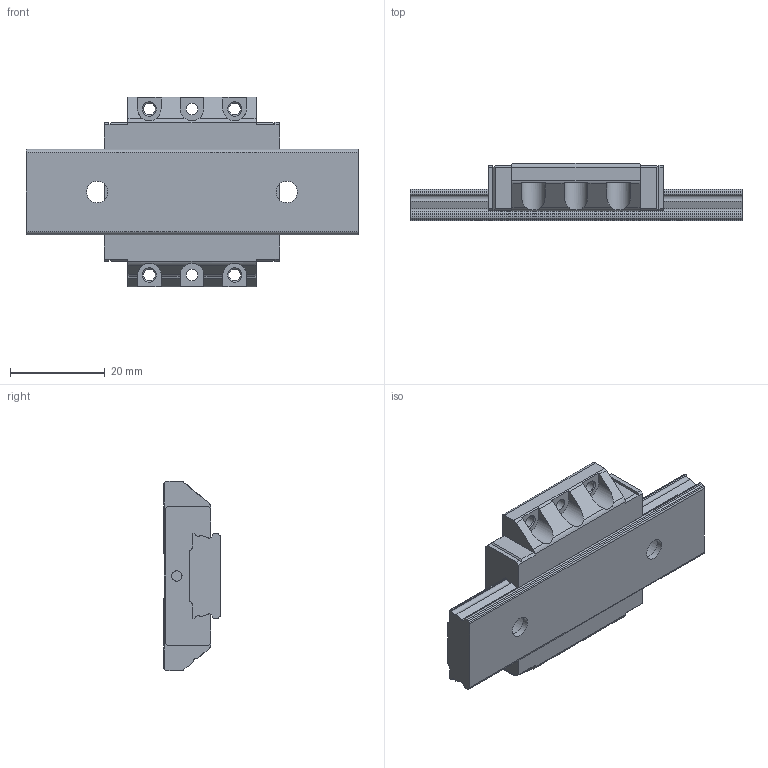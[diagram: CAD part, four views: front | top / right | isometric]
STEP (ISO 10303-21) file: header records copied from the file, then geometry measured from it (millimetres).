
FILE_DESCRIPTION(/* description */ ('STEP AP203'),/* implementation_level */ '2;1');
FILE_NAME(/* name */ 'SHW12CA1SSM-70LM_G15_0_Without_grease_nipple_16-5_0_0_01',/* time_stamp */ '2024-05-17T08:17:41+02:00',/* author */ ('License CC BY-ND 4.0'),/* organization */ ('CADENAS'),/* preprocessor_version */ 'ST-DEVELOPER v19.3',/* originating_system */ 'PARTsolutions',/* authorisation */ ' ');
FILE_SCHEMA (('CONFIG_CONTROL_DESIGN'));
Length unit declared in the file: millimetre
Products named in the file (4): SHW12CA1SSM-70LM_G15_0_Without_grease_nipple_16-5_0_0_01; SHW12CAM7015 Track; SHW12CAMSS1 Slide12-50; -SHW_grease_nipple_joint
Assembly tree (3 placements, depth 2):
  SHW12CA1SSM-70LM_G15_0_Without_grease_nipple_16-5_0_0_01
    SHW12CAM7015 Track
    SHW12CAMSS1 Slide12-50
    -SHW_grease_nipple_joint
Bounding box: 70 x 12 x 40 mm (x, y, z)
Volume: 16640.6 mm3; surface area: 8567.6 mm2
Topology: 2 solids, 2 shells, 184 faces, 520 edges, 345 vertices
Faces by surface type: plane 112, cylinder 64, cone 8
Full cylindrical faces by diameter (mm): 2.2 x2, 2.5 x6, 4.5 x2, 7.5 x2
Entity records: 5958 total; most frequent: CARTESIAN_POINT 1077, DIRECTION 1006, ORIENTED_EDGE 984, EDGE_CURVE 492, AXIS2_PLACEMENT_3D 344, VERTEX_POINT 336, LINE 318, VECTOR 318
